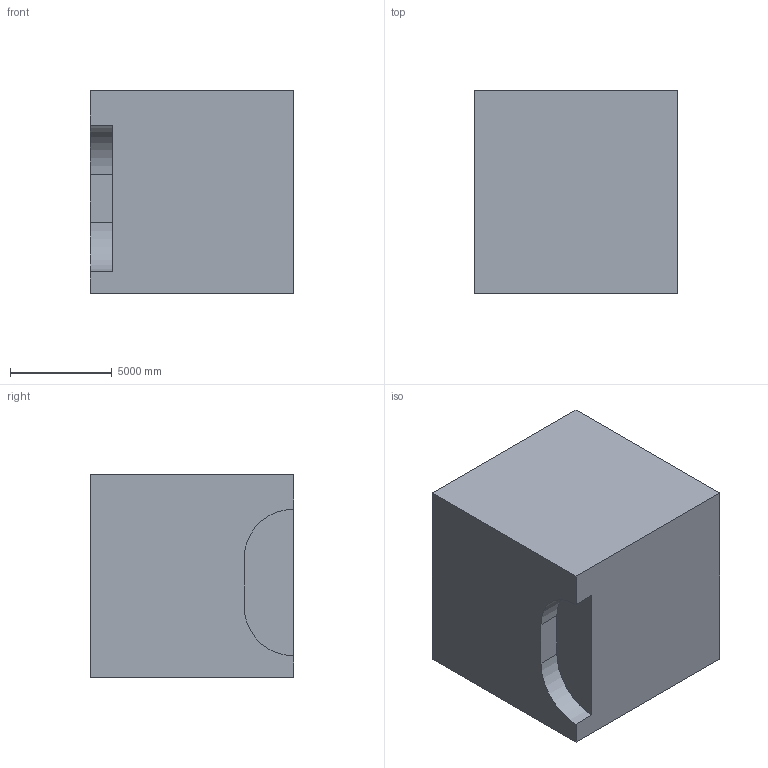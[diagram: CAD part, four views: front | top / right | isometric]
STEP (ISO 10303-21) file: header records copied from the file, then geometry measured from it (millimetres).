
FILE_DESCRIPTION (( 'STEP AP203' ), '1' );
FILE_NAME ('69.STEP', '2022-07-28T13:32:26', ( 'user' ), ( '' ), 'SwSTEP 2.0', 'SolidWorks 2021', '' );
FILE_SCHEMA (( 'CONFIG_CONTROL_DESIGN' ));
Length unit declared in the file: centimetre
Products named in the file (1): 69
Bounding box: 10000 x 10000 x 10000 mm (x, y, z)
Volume: 955099728417.8 mm3; surface area: 641876594.3 mm2
Topology: 1 solids, 1 shells, 13 faces, 30 edges, 20 vertices
Faces by surface type: plane 9, cylinder 4
Entity records: 449 total; most frequent: DIRECTION 66, CARTESIAN_POINT 64, ORIENTED_EDGE 60, EDGE_CURVE 30, AXIS2_PLACEMENT_3D 22, VECTOR 22, LINE 22, VERTEX_POINT 20
